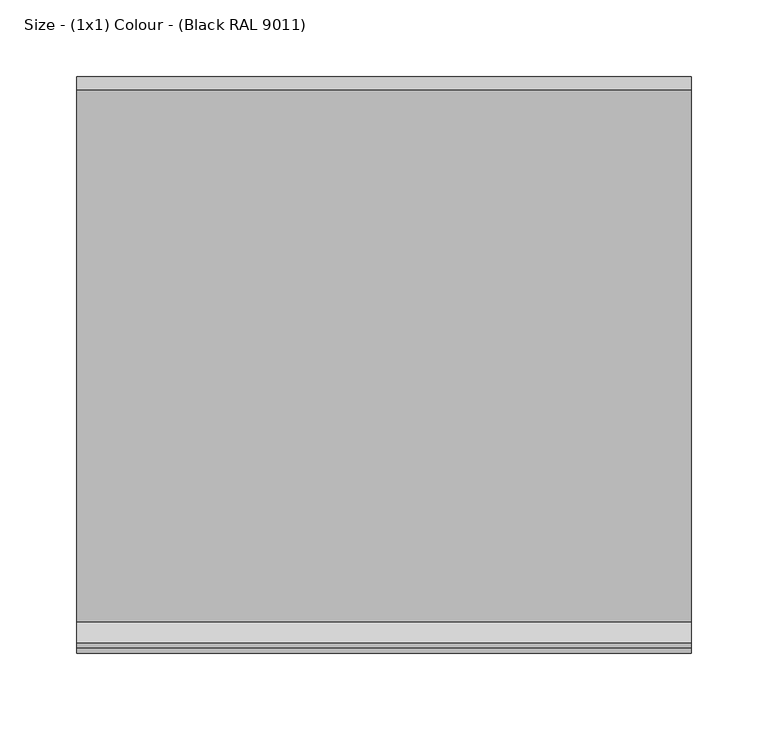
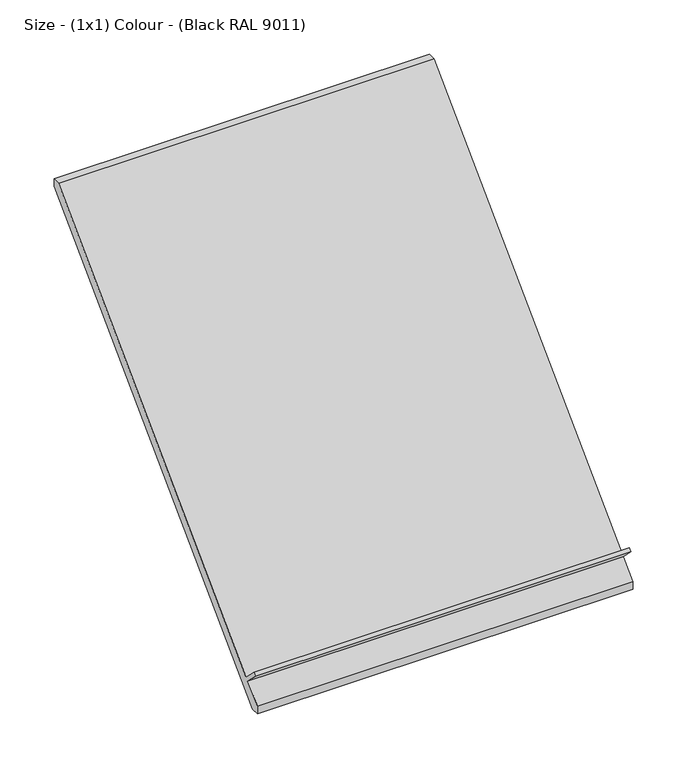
"""IFC4 building model written with IfcOpenShell, lengths in millimetres: furniture geometry, Furniture_Shelving-Storage_Grid_Magazine-Shelf : Size - (1x1) Colour - (Black RAL 9011)."""

from ifc_helpers import new_model, si_unit, frame, origin, place, context, project, spatial, polyline, outline, extrude, source, transform, mapped, element, save


def size_1x1_colour_black_ral_9011_5a1d2a69(model_context):
    return source(origin(), model_context, "Body", "SweptSolid", [
        extrude(outline(polyline([(-181.6372259, 55.6376022), (-167.4950903, 41.4954666), (179.5135317, 388.5040886), (187.9988131, 388.5040886), (187.9988131, 380.0188072), (-179.5159056, 12.5040886), (-188.0011869, 12.5040886), (-188.0011869, 20.98937), (-170.3235174, 38.6670395), (-184.465653, 52.8091751), (-181.6372259, 55.6376022)])), frame((-200.5, 0.0, 0.0), z_axis=(1.0, 0.0, 0.0), x_axis=(0.0, 1.0, 0.0)), (0.0, 0.0, 1.0), 401.0),
    ])


if __name__ == "__main__":
    model = new_model("IFC4")
    model_context = context("Model", 3, world=origin())
    ifc_project = project(units=[si_unit("LENGTHUNIT", "METRE", prefix="MILLI")], contexts=[model_context])
    site = spatial("IfcSite", under=ifc_project)
    building = spatial("IfcBuilding", under=site)
    placement = place(None, origin())
    size_1x1_colour_black_ral_9011_shape = size_1x1_colour_black_ral_9011_5a1d2a69(model_context)
    element("IfcFurniture", 1, ObjectType="Furniture_Shelving-Storage_Grid_Magazine-Shelf : Size - (1x1) Colour - (Black RAL 9011)", at=placement, inside=building, context=model_context, shape_type="MappedRepresentation", body=[
        mapped(size_1x1_colour_black_ral_9011_shape, transform((0.0, 0.0, 0.0), x_axis=(1.0, 0.0, 0.0), y_axis=(0.0, 1.0, 0.0), z_axis=(0.0, 0.0, 1.0))),
    ])
    save(model, "model.ifc")
